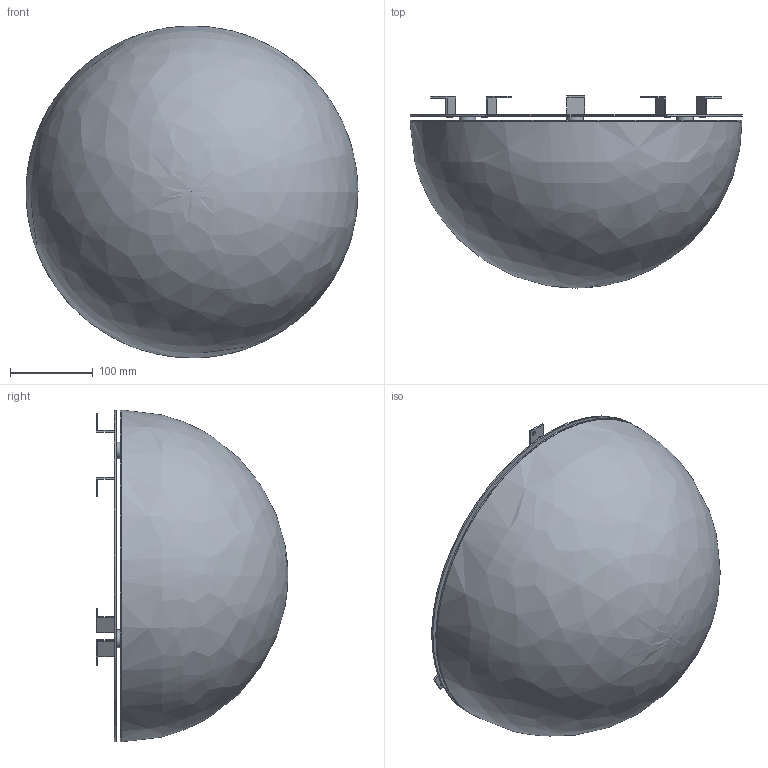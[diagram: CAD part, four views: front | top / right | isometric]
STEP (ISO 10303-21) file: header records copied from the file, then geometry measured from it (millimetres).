
FILE_DESCRIPTION(/* description */ (''),/* implementation_level */ '2;1');
FILE_NAME(/* name */ 'MOSSwall® 2023 - 3D Round 40',/* time_stamp */ '2023-07-24T10:27:05+02:00',/* author */ (''),/* organization */ (''),/* preprocessor_version */ 'ST-DEVELOPER v16.5',/* originating_system */ 'Rhino 7.20',/* authorisation */ '');
FILE_SCHEMA (('CONFIG_CONTROL_DESIGN'));
Length unit declared in the file: millimetre
Products named in the file (1): Document
Bounding box: 400 x 231.11 x 399.92 mm (x, y, z)
Volume: 10025482 mm3; surface area: 806059.8 mm2
Topology: 18 solids, 18 shells, 129 faces, 266 edges, 171 vertices
Faces by surface type: plane 95, cylinder 25, bspline 9
Full cylindrical faces by diameter (mm): 1.967 x6, 4.71 x12, 20 x3, 232.324 x2, 400 x2
Entity records: 3606 total; most frequent: CARTESIAN_POINT 1561, ORIENTED_EDGE 510, EDGE_CURVE 255, EDGE_LOOP 170, VERTEX_POINT 163, B_SPLINE_CURVE_WITH_KNOTS 156, ADVANCED_FACE 129, FACE_OUTER_BOUND 129
